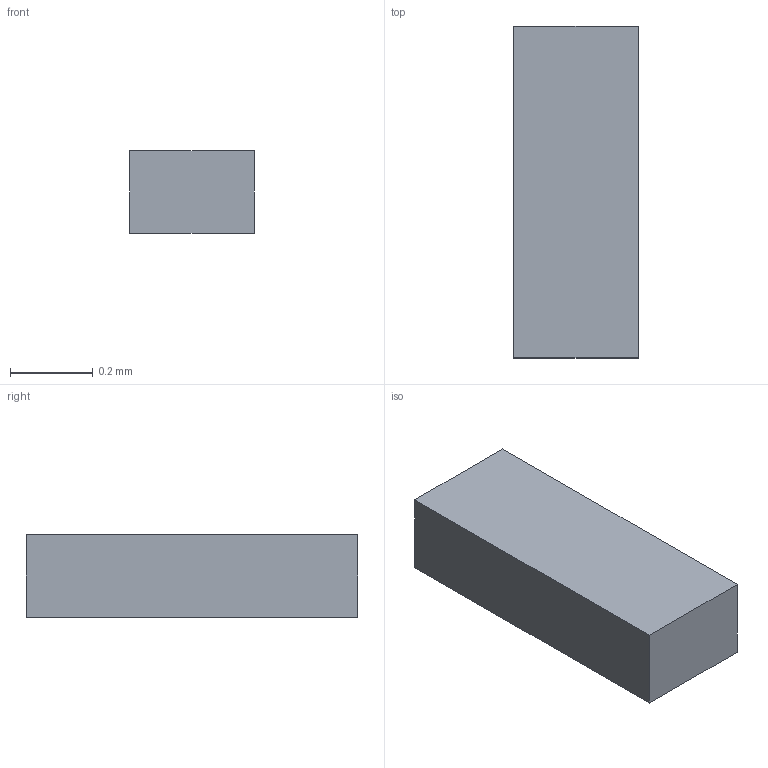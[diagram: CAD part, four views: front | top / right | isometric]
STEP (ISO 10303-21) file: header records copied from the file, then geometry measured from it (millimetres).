
FILE_DESCRIPTION(('Open CASCADE Model'),'2;1');
FILE_NAME('Open CASCADE Shape Model','2026-09-08T16:17:04',('Author'),( 'Open CASCADE'),'Open CASCADE STEP processor 7.7','Open CASCADE 7.7' ,'Unknown');
FILE_SCHEMA(('AUTOMOTIVE_DESIGN { 1 0 10303 214 1 1 1 1 }'));
Length unit declared in the file: millimetre
Products named in the file (1): Open CASCADE STEP translator 7.7 15
Bounding box: 0.3 x 0.8 x 0.2 mm (x, y, z)
Volume: 0 mm3; surface area: 0.9 mm2
Topology: 1 solids, 1 shells, 6 faces, 12 edges, 8 vertices
Faces by surface type: plane 6
Entity records: 322 total; most frequent: CARTESIAN_POINT 51, DIRECTION 50, LINE 36, VECTOR 36, ORIENTED_EDGE 24, PCURVE 24, DEFINITIONAL_REPRESENTATION 24, EDGE_CURVE 12
